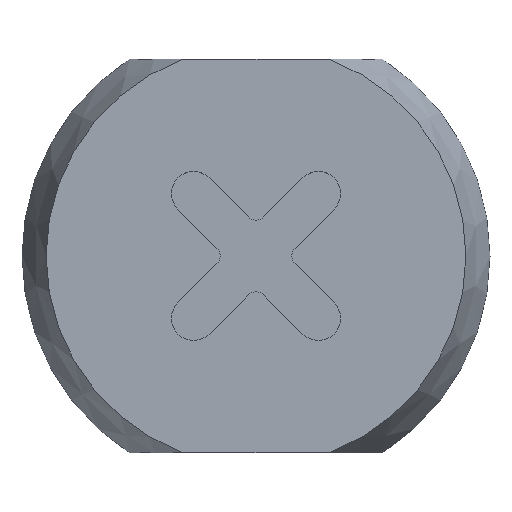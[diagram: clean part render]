
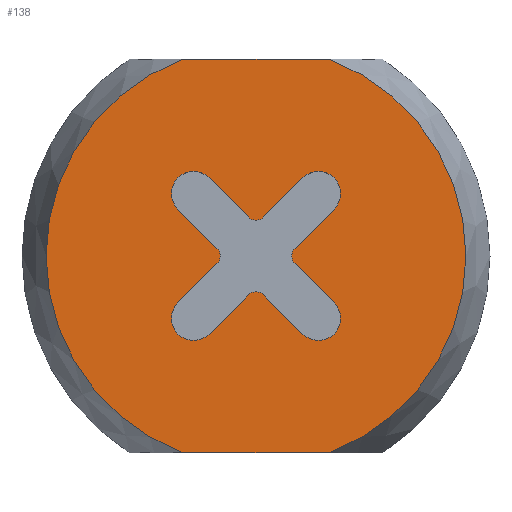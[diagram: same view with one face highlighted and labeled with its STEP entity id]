
A CAD part, top view. The second image highlights one B-rep face of the part: STEP entity #138.
In plain terms, the highlighted planar face has unit normal (0, 0, 1).
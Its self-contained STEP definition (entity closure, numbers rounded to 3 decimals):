
#44=PLANE('',#483);
#59=LINE('',#682,#95);
#60=LINE('',#687,#96);
#61=LINE('',#691,#97);
#62=LINE('',#695,#98);
#63=LINE('',#699,#99);
#64=LINE('',#703,#100);
#65=LINE('',#707,#101);
#66=LINE('',#711,#102);
#67=LINE('',#714,#103);
#68=LINE('',#715,#104);
#95=VECTOR('',#534,1.);
#96=VECTOR('',#537,1.);
#97=VECTOR('',#540,1.);
#98=VECTOR('',#543,1.);
#99=VECTOR('',#546,1.);
#100=VECTOR('',#549,1.);
#101=VECTOR('',#552,1.);
#102=VECTOR('',#555,1.);
#103=VECTOR('',#558,1.);
#104=VECTOR('',#559,1.);
#131=FACE_BOUND('',#188,.T.);
#132=FACE_BOUND('',#189,.T.);
#138=ADVANCED_FACE('',(#131,#132),#44,.F.);
#188=EDGE_LOOP('',(#229,#230,#231,#232,#233,#234,#235,#236,#237,#238,#239,
#240,#241,#242,#243,#244));
#189=EDGE_LOOP('',(#245,#246,#247,#248));
#229=ORIENTED_EDGE('',*,*,#393,.F.);
#230=ORIENTED_EDGE('',*,*,#394,.T.);
#231=ORIENTED_EDGE('',*,*,#395,.F.);
#232=ORIENTED_EDGE('',*,*,#396,.T.);
#233=ORIENTED_EDGE('',*,*,#397,.F.);
#234=ORIENTED_EDGE('',*,*,#398,.T.);
#235=ORIENTED_EDGE('',*,*,#399,.F.);
#236=ORIENTED_EDGE('',*,*,#400,.T.);
#237=ORIENTED_EDGE('',*,*,#401,.F.);
#238=ORIENTED_EDGE('',*,*,#402,.T.);
#239=ORIENTED_EDGE('',*,*,#403,.F.);
#240=ORIENTED_EDGE('',*,*,#404,.T.);
#241=ORIENTED_EDGE('',*,*,#405,.F.);
#242=ORIENTED_EDGE('',*,*,#406,.T.);
#243=ORIENTED_EDGE('',*,*,#407,.F.);
#244=ORIENTED_EDGE('',*,*,#408,.T.);
#245=ORIENTED_EDGE('',*,*,#409,.F.);
#246=ORIENTED_EDGE('',*,*,#384,.F.);
#247=ORIENTED_EDGE('',*,*,#410,.F.);
#248=ORIENTED_EDGE('',*,*,#386,.F.);
#342=VERTEX_POINT('',#654);
#343=VERTEX_POINT('',#656);
#344=VERTEX_POINT('',#663);
#345=VERTEX_POINT('',#664);
#349=VERTEX_POINT('',#683);
#350=VERTEX_POINT('',#684);
#351=VERTEX_POINT('',#686);
#352=VERTEX_POINT('',#688);
#353=VERTEX_POINT('',#690);
#354=VERTEX_POINT('',#692);
#355=VERTEX_POINT('',#694);
#356=VERTEX_POINT('',#696);
#357=VERTEX_POINT('',#698);
#358=VERTEX_POINT('',#700);
#359=VERTEX_POINT('',#702);
#360=VERTEX_POINT('',#704);
#361=VERTEX_POINT('',#706);
#362=VERTEX_POINT('',#708);
#363=VERTEX_POINT('',#710);
#364=VERTEX_POINT('',#712);
#384=EDGE_CURVE('',#342,#343,#445,.T.);
#386=EDGE_CURVE('',#344,#345,#446,.T.);
#393=EDGE_CURVE('',#349,#350,#59,.T.);
#394=EDGE_CURVE('',#349,#351,#449,.T.);
#395=EDGE_CURVE('',#352,#351,#60,.T.);
#396=EDGE_CURVE('',#352,#353,#450,.T.);
#397=EDGE_CURVE('',#354,#353,#61,.T.);
#398=EDGE_CURVE('',#354,#355,#451,.T.);
#399=EDGE_CURVE('',#356,#355,#62,.T.);
#400=EDGE_CURVE('',#356,#357,#452,.T.);
#401=EDGE_CURVE('',#358,#357,#63,.T.);
#402=EDGE_CURVE('',#358,#359,#453,.T.);
#403=EDGE_CURVE('',#360,#359,#64,.T.);
#404=EDGE_CURVE('',#360,#361,#454,.T.);
#405=EDGE_CURVE('',#362,#361,#65,.T.);
#406=EDGE_CURVE('',#362,#363,#455,.T.);
#407=EDGE_CURVE('',#364,#363,#66,.T.);
#408=EDGE_CURVE('',#364,#350,#456,.T.);
#409=EDGE_CURVE('',#343,#344,#67,.T.);
#410=EDGE_CURVE('',#345,#342,#68,.T.);
#445=CIRCLE('',#468,9.5);
#446=CIRCLE('',#470,9.5);
#449=CIRCLE('',#475,0.5);
#450=CIRCLE('',#476,1.);
#451=CIRCLE('',#477,0.5);
#452=CIRCLE('',#478,1.);
#453=CIRCLE('',#479,0.5);
#454=CIRCLE('',#480,1.);
#455=CIRCLE('',#481,0.5);
#456=CIRCLE('',#482,1.);
#468=AXIS2_PLACEMENT_3D('',#655,#518,#519);
#470=AXIS2_PLACEMENT_3D('',#662,#522,#523);
#475=AXIS2_PLACEMENT_3D('',#685,#535,#536);
#476=AXIS2_PLACEMENT_3D('',#689,#538,#539);
#477=AXIS2_PLACEMENT_3D('',#693,#541,#542);
#478=AXIS2_PLACEMENT_3D('',#697,#544,#545);
#479=AXIS2_PLACEMENT_3D('',#701,#547,#548);
#480=AXIS2_PLACEMENT_3D('',#705,#550,#551);
#481=AXIS2_PLACEMENT_3D('',#709,#553,#554);
#482=AXIS2_PLACEMENT_3D('',#713,#556,#557);
#483=AXIS2_PLACEMENT_3D('',#716,#560,#561);
#518=DIRECTION('',(0.,0.,-1.));
#519=DIRECTION('',(-1.,0.,0.));
#522=DIRECTION('',(0.,0.,-1.));
#523=DIRECTION('',(-1.,0.,0.));
#534=DIRECTION('',(0.707,0.707,0.));
#535=DIRECTION('',(0.,0.,1.));
#536=DIRECTION('',(-1.,0.,0.));
#537=DIRECTION('',(-0.707,0.707,0.));
#538=DIRECTION('',(0.,0.,-1.));
#539=DIRECTION('',(-1.,0.,0.));
#540=DIRECTION('',(0.707,-0.707,0.));
#541=DIRECTION('',(0.,0.,1.));
#542=DIRECTION('',(-1.,0.,0.));
#543=DIRECTION('',(0.707,0.707,0.));
#544=DIRECTION('',(0.,0.,-1.));
#545=DIRECTION('',(-1.,0.,0.));
#546=DIRECTION('',(-0.707,-0.707,0.));
#547=DIRECTION('',(0.,0.,1.));
#548=DIRECTION('',(-1.,0.,0.));
#549=DIRECTION('',(0.707,-0.707,0.));
#550=DIRECTION('',(0.,0.,-1.));
#551=DIRECTION('',(-1.,0.,0.));
#552=DIRECTION('',(-0.707,0.707,0.));
#553=DIRECTION('',(0.,0.,1.));
#554=DIRECTION('',(-1.,0.,0.));
#555=DIRECTION('',(-0.707,-0.707,0.));
#556=DIRECTION('',(0.,0.,-1.));
#557=DIRECTION('',(-1.,0.,0.));
#558=DIRECTION('',(-1.,0.,0.));
#559=DIRECTION('',(1.,0.,0.));
#560=DIRECTION('',(0.,0.,-1.));
#561=DIRECTION('',(-1.,0.,0.));
#654=CARTESIAN_POINT('',(3.323,8.9,0.));
#655=CARTESIAN_POINT('',(0.,0.,0.));
#656=CARTESIAN_POINT('',(3.323,-8.9,0.));
#662=CARTESIAN_POINT('',(0.,0.,0.));
#663=CARTESIAN_POINT('',(-3.323,-8.9,0.));
#664=CARTESIAN_POINT('',(-3.323,8.9,0.));
#682=CARTESIAN_POINT('',(1.414,0.,0.));
#683=CARTESIAN_POINT('',(1.768,0.354,0.));
#684=CARTESIAN_POINT('',(3.536,2.121,0.));
#685=CARTESIAN_POINT('',(2.121,0.,0.));
#686=CARTESIAN_POINT('',(1.768,-0.354,0.));
#687=CARTESIAN_POINT('',(4.243,-2.828,0.));
#688=CARTESIAN_POINT('',(3.536,-2.121,0.));
#689=CARTESIAN_POINT('',(2.828,-2.828,0.));
#690=CARTESIAN_POINT('',(2.121,-3.536,0.));
#691=CARTESIAN_POINT('',(0.,-1.414,0.));
#692=CARTESIAN_POINT('',(0.354,-1.768,0.));
#693=CARTESIAN_POINT('',(0.,-2.121,0.));
#694=CARTESIAN_POINT('',(-0.354,-1.768,0.));
#695=CARTESIAN_POINT('',(-2.828,-4.243,0.));
#696=CARTESIAN_POINT('',(-2.121,-3.536,0.));
#697=CARTESIAN_POINT('',(-2.828,-2.828,0.));
#698=CARTESIAN_POINT('',(-3.536,-2.121,0.));
#699=CARTESIAN_POINT('',(-1.414,0.,0.));
#700=CARTESIAN_POINT('',(-1.768,-0.354,0.));
#701=CARTESIAN_POINT('',(-2.121,0.,0.));
#702=CARTESIAN_POINT('',(-1.768,0.354,0.));
#703=CARTESIAN_POINT('',(-4.243,2.828,0.));
#704=CARTESIAN_POINT('',(-3.536,2.121,0.));
#705=CARTESIAN_POINT('',(-2.828,2.828,0.));
#706=CARTESIAN_POINT('',(-2.121,3.536,0.));
#707=CARTESIAN_POINT('',(0.,1.414,0.));
#708=CARTESIAN_POINT('',(-0.354,1.768,0.));
#709=CARTESIAN_POINT('',(0.,2.121,0.));
#710=CARTESIAN_POINT('',(0.354,1.768,0.));
#711=CARTESIAN_POINT('',(2.828,4.243,0.));
#712=CARTESIAN_POINT('',(2.121,3.536,0.));
#713=CARTESIAN_POINT('',(2.828,2.828,0.));
#714=CARTESIAN_POINT('',(10.592,-8.9,0.));
#715=CARTESIAN_POINT('',(-10.592,8.9,0.));
#716=CARTESIAN_POINT('',(0.,0.,0.));
